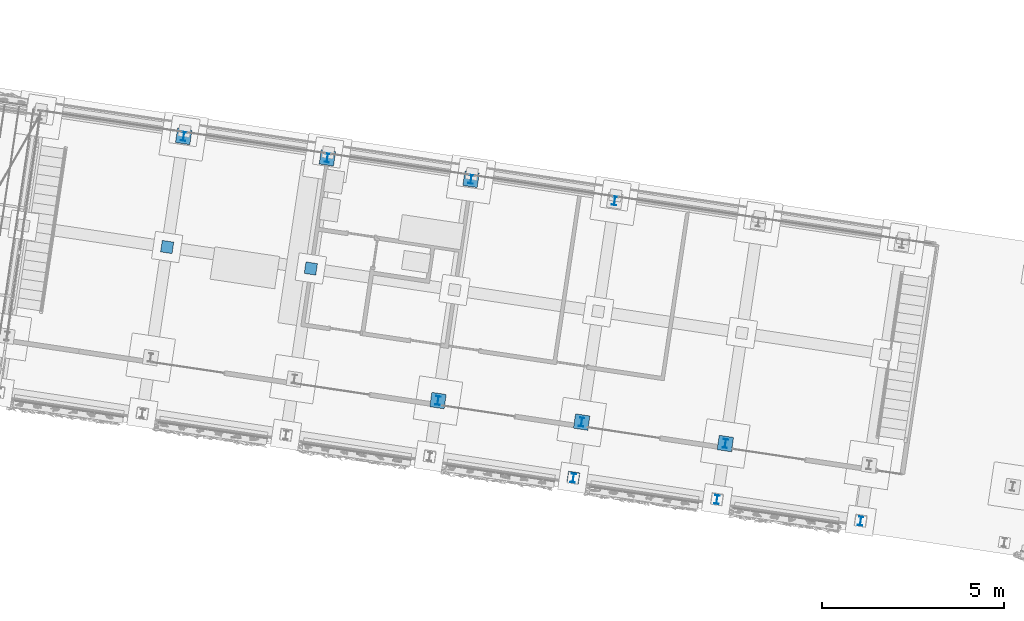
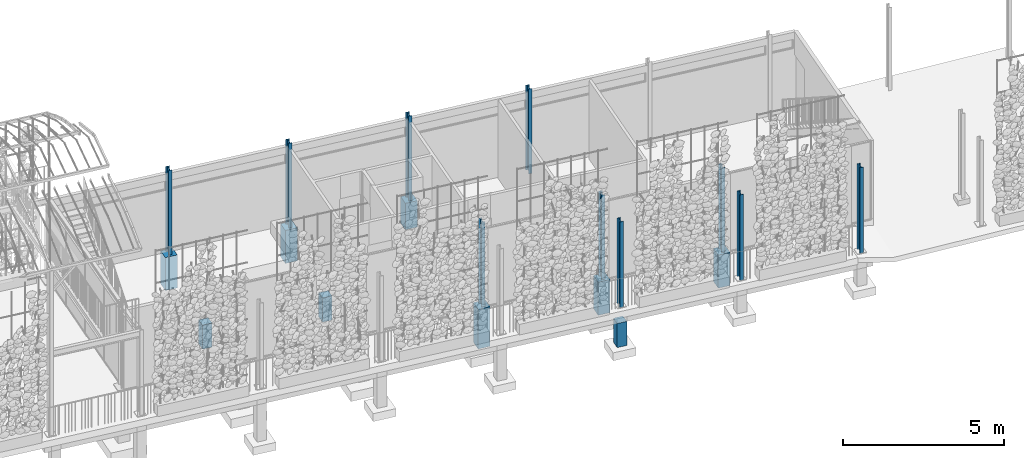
# One storey, part 4 of 142: 19 columns, 1 element without a shape of its own.
"""IFC4 building model written with IfcOpenShell, lengths in metres."""

from ifc_helpers import new_model, si_unit, direction, frame, origin_with_axes, place, context, subcontext, project, spatial, polyline, i_section, outline, extrude, material, material_profile, profile_set, profile_usage, type_object, element, aggregate, save


model = new_model("IFC4")

# Units and contexts
model_context = context("Model", 3, precision=1e-05, world=origin_with_axes(), true_north=direction((0.0, 1.0)))
body_context = subcontext(model_context, "Body", "Model", "MODEL_VIEW")
ifc_project = project(units=[si_unit("AREAUNIT", "SQUARE_METRE"), si_unit("VOLUMEUNIT", "CUBIC_METRE"), si_unit("LENGTHUNIT", "METRE")], contexts=[model_context])

# Site, building, storey
site_placement = place(None, origin_with_axes())
site = spatial("IfcSite", under=ifc_project, at=site_placement, Name="Lares · Rua das Mercês · artigo 4771")
building_placement = place(site_placement, frame((15.0, 9.7, 14.65), z_axis=(0.0, 0.0, 1.0), x_axis=(0.989015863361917, -0.147809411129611, 0.0)))
building = spatial("IfcBuilding", under=site, at=building_placement, Name="Casa Sobreposta")
storey_placement = place(building_placement, origin_with_axes())
storey = spatial("IfcBuildingStorey", under=building, at=storey_placement, Name="00 · Habitação e estacionamento", Elevation=14.65)

# Columns
ifc_material_1 = material(Name="Aço pintado / Stahl lackiert", Category="steel")
ifc_material_profile = material_profile(ifc_material_1, i_section(OverallWidth=0.12, OverallDepth=0.24, WebThickness=0.0062, FlangeThickness=0.0098))
ifc_profile_set = profile_set([ifc_material_profile], Name="IPE240")
ifc_profile_usage_1 = profile_usage(ifc_profile_set)
column_type = type_object("IfcColumnType", Name="IPE240 / steel", PredefinedType="NOTDEFINED", material=ifc_profile_set)
column_1_placement = place(storey_placement, frame((4.0, 6.28, 0.0), z_axis=(0.0, 0.0, 1.0), x_axis=(1.0, 0.0, 0.0)))
element("IfcColumn", 1, at=column_1_placement, inside=storey, type_object=column_type, material=ifc_profile_usage_1, Name="Pilar 2B · IPE240", context=body_context, shape_type="SweptSolid", body=[
    extrude(i_section(OverallWidth=0.12, OverallDepth=0.24, WebThickness=0.0062, FlangeThickness=0.0098), origin_with_axes(), (0.0, 0.0, 1.0), 3.208),
])
ifc_profile_usage_2 = profile_usage(ifc_profile_set)
column_2_placement = place(storey_placement, frame((8.0, 6.28, 0.0), z_axis=(0.0, 0.0, 1.0), x_axis=(1.0, 0.0, 0.0)))
element("IfcColumn", 2, at=column_2_placement, inside=storey, type_object=column_type, material=ifc_profile_usage_2, Name="Pilar 3B · IPE240", context=body_context, shape_type="SweptSolid", body=[
    extrude(i_section(OverallWidth=0.12, OverallDepth=0.24, WebThickness=0.0062, FlangeThickness=0.0098), origin_with_axes(), (0.0, 0.0, 1.0), 3.208),
])
ifc_profile_usage_3 = profile_usage(ifc_profile_set)
column_3_placement = place(storey_placement, frame((12.0, 0.12, 0.0), z_axis=(0.0, 0.0, 1.0), x_axis=(1.0, 0.0, 0.0)))
element("IfcColumn", 3, at=column_3_placement, inside=storey, type_object=column_type, material=ifc_profile_usage_3, Name="Pilar 4A · IPE240", context=body_context, shape_type="SweptSolid", body=[
    extrude(i_section(OverallWidth=0.12, OverallDepth=0.24, WebThickness=0.0062, FlangeThickness=0.0098), origin_with_axes(), (0.0, 0.0, 1.0), 3.208),
])
ifc_profile_usage_4 = profile_usage(ifc_profile_set)
column_4_placement = place(storey_placement, frame((12.0, 6.28, 0.0), z_axis=(0.0, 0.0, 1.0), x_axis=(1.0, 0.0, 0.0)))
element("IfcColumn", 4, at=column_4_placement, inside=storey, type_object=column_type, material=ifc_profile_usage_4, Name="Pilar 4B · IPE240", context=body_context, shape_type="SweptSolid", body=[
    extrude(i_section(OverallWidth=0.12, OverallDepth=0.24, WebThickness=0.0062, FlangeThickness=0.0098), origin_with_axes(), (0.0, 0.0, 1.0), 3.208),
])
ifc_profile_usage_5 = profile_usage(ifc_profile_set)
column_5_placement = place(storey_placement, frame((16.0, 0.12, 0.0), z_axis=(0.0, 0.0, 1.0), x_axis=(1.0, 0.0, 0.0)))
element("IfcColumn", 5, at=column_5_placement, inside=storey, type_object=column_type, material=ifc_profile_usage_5, Name="Pilar 5A · IPE240", context=body_context, shape_type="SweptSolid", body=[
    extrude(i_section(OverallWidth=0.12, OverallDepth=0.24, WebThickness=0.0062, FlangeThickness=0.0098), origin_with_axes(), (0.0, 0.0, 1.0), 3.208),
])
ifc_profile_usage_6 = profile_usage(ifc_profile_set)
column_6_placement = place(storey_placement, frame((16.0, 6.28, 0.0), z_axis=(0.0, 0.0, 1.0), x_axis=(1.0, 0.0, 0.0)))
element("IfcColumn", 6, at=column_6_placement, inside=storey, type_object=column_type, material=ifc_profile_usage_6, Name="Pilar 5B · IPE240", context=body_context, shape_type="SweptSolid", body=[
    extrude(i_section(OverallWidth=0.12, OverallDepth=0.24, WebThickness=0.0062, FlangeThickness=0.0098), origin_with_axes(), (0.0, 0.0, 1.0), 3.208),
])
ifc_profile_usage_7 = profile_usage(ifc_profile_set)
column_7_placement = place(storey_placement, frame((20.0, 0.12, 0.0), z_axis=(0.0, 0.0, 1.0), x_axis=(1.0, 0.0, 0.0)))
element("IfcColumn", 7, at=column_7_placement, inside=storey, type_object=column_type, material=ifc_profile_usage_7, Name="Pilar 6A · IPE240", context=body_context, shape_type="SweptSolid", body=[
    extrude(i_section(OverallWidth=0.12, OverallDepth=0.24, WebThickness=0.0062, FlangeThickness=0.0098), origin_with_axes(), (0.0, 0.0, 1.0), 3.208),
])
ifc_profile_usage_8 = profile_usage(ifc_profile_set)
column_8_placement = place(storey_placement, frame((16.0, -1.44, -0.04), z_axis=(0.0, 0.0, 1.0), x_axis=(1.0, 0.0, 0.0)))
element("IfcColumn", 8, at=column_8_placement, inside=storey, type_object=column_type, material=ifc_profile_usage_8, Name="Projeção estufa · pilar sul ao pódio", context=body_context, shape_type="SweptSolid", body=[
    extrude(i_section(OverallWidth=0.12, OverallDepth=0.24, WebThickness=0.0062, FlangeThickness=0.0098), origin_with_axes(), (0.0, 0.0, 1.0), 3.248),
])
ifc_profile_usage_9 = profile_usage(ifc_profile_set)
column_9_placement = place(storey_placement, frame((20.0, -1.44, -0.04), z_axis=(0.0, 0.0, 1.0), x_axis=(1.0, 0.0, 0.0)))
element("IfcColumn", 9, at=column_9_placement, inside=storey, type_object=column_type, material=ifc_profile_usage_9, Name="Projeção estufa · pilar sul ao pódio", context=body_context, shape_type="SweptSolid", body=[
    extrude(i_section(OverallWidth=0.12, OverallDepth=0.24, WebThickness=0.0062, FlangeThickness=0.0098), origin_with_axes(), (0.0, 0.0, 1.0), 3.248),
])
ifc_profile_usage_10 = profile_usage(ifc_profile_set)
column_10_placement = place(storey_placement, frame((24.0, -1.44, -0.04), z_axis=(0.0, 0.0, 1.0), x_axis=(1.0, 0.0, 0.0)))
element("IfcColumn", 10, at=column_10_placement, inside=storey, type_object=column_type, material=ifc_profile_usage_10, Name="Projeção estufa · pilar sul ao pódio", context=body_context, shape_type="SweptSolid", body=[
    extrude(i_section(OverallWidth=0.12, OverallDepth=0.24, WebThickness=0.0062, FlangeThickness=0.0098), origin_with_axes(), (0.0, 0.0, 1.0), 3.248),
])
ifc_material_2 = material(Name="Betão armado / Stahlbeton", Category="concrete")
column_11_placement = place(storey_placement, frame((0.0, 0.0, -1.25), z_axis=(0.0, 0.0, 1.0), x_axis=(1.0, 0.0, 0.0)))
element("IfcColumn", 11, at=column_11_placement, inside=storey, material=ifc_material_2, Name="Pedestal 2B · betão 400 x 400", context=body_context, shape_type="SweptSolid", body=[
    extrude(outline(polyline([(4.2, 6.08), (4.2, 6.48), (3.8, 6.48), (3.8, 6.08), (4.2, 6.08)])), origin_with_axes(), (0.0, 0.0, 1.0), 1.25),
])
column_12_placement = place(storey_placement, frame((0.0, 0.0, -1.25), z_axis=(0.0, 0.0, 1.0), x_axis=(1.0, 0.0, 0.0)))
element("IfcColumn", 12, at=column_12_placement, inside=storey, material=ifc_material_2, Name="Pedestal 3B · betão 400 x 400", context=body_context, shape_type="SweptSolid", body=[
    extrude(outline(polyline([(8.2, 6.08), (8.2, 6.48), (7.8, 6.48), (7.8, 6.08), (8.2, 6.08)])), origin_with_axes(), (0.0, 0.0, 1.0), 1.25),
])
column_13_placement = place(storey_placement, frame((0.0, 0.0, -1.5), z_axis=(0.0, 0.0, 1.0), x_axis=(1.0, 0.0, 0.0)))
element("IfcColumn", 13, at=column_13_placement, inside=storey, material=ifc_material_2, Name="Pedestal 4A · betão 400 x 400", context=body_context, shape_type="SweptSolid", body=[
    extrude(outline(polyline([(12.2, -0.08), (12.2, 0.32), (11.8, 0.32), (11.8, -0.08), (12.2, -0.08)])), origin_with_axes(), (0.0, 0.0, 1.0), 1.5),
])
column_14_placement = place(storey_placement, frame((0.0, 0.0, -1.0), z_axis=(0.0, 0.0, 1.0), x_axis=(1.0, 0.0, 0.0)))
element("IfcColumn", 14, at=column_14_placement, inside=storey, material=ifc_material_2, Name="Pedestal 4B · betão 400 x 400", context=body_context, shape_type="SweptSolid", body=[
    extrude(outline(polyline([(12.2, 6.08), (12.2, 6.48), (11.8, 6.48), (11.8, 6.08), (12.2, 6.08)])), origin_with_axes(), (0.0, 0.0, 1.0), 1.0),
])
column_15_placement = place(storey_placement, frame((0.0, 0.0, -1.25), z_axis=(0.0, 0.0, 1.0), x_axis=(1.0, 0.0, 0.0)))
element("IfcColumn", 15, at=column_15_placement, inside=storey, material=ifc_material_2, Name="Pedestal 5A · betão 400 x 400", context=body_context, shape_type="SweptSolid", body=[
    extrude(outline(polyline([(16.2, -0.08), (16.2, 0.32), (15.8, 0.32), (15.8, -0.08), (16.2, -0.08)])), origin_with_axes(), (0.0, 0.0, 1.0), 1.25),
])
column_16_placement = place(storey_placement, frame((0.0, 0.0, -1.25), z_axis=(0.0, 0.0, 1.0), x_axis=(1.0, 0.0, 0.0)))
element("IfcColumn", 16, at=column_16_placement, inside=storey, material=ifc_material_2, Name="Pedestal 6A · betão 400 x 400", context=body_context, shape_type="SweptSolid", body=[
    extrude(outline(polyline([(20.2, -0.08), (20.2, 0.32), (19.8, 0.32), (19.8, -0.08), (20.2, -0.08)])), origin_with_axes(), (0.0, 0.0, 1.0), 1.25),
])

# Assembly, columns
assembly_placement = place(storey_placement, origin_with_axes())
assembly = element("IfcElementAssembly", 17, at=assembly_placement, inside=storey, Name="Pódio · terraço, casa térrea e cisterna", ObjectType="CISTERN_PODIUM", PredefinedType="USERDEFINED")
column_17_placement = place(assembly_placement, frame((0.0, 0.0, -1.5), z_axis=(0.0, 0.0, 1.0), x_axis=(1.0, 0.0, 0.0)))
column_17 = element("IfcColumn", 18, at=column_17_placement, material=ifc_material_2, Name="Pódio suspenso · apoio sobre o terreno", context=body_context, shape_type="SweptSolid", body=[
    extrude(outline(polyline([(4.16, 3.04), (4.16, 3.36), (3.84, 3.36), (3.84, 3.04), (4.16, 3.04)])), origin_with_axes(), (0.0, 0.0, 1.0), 0.91),
])
column_18_placement = place(assembly_placement, frame((0.0, 0.0, -1.5), z_axis=(0.0, 0.0, 1.0), x_axis=(1.0, 0.0, 0.0)))
column_18 = element("IfcColumn", 19, at=column_18_placement, material=ifc_material_2, Name="Pódio suspenso · apoio sobre o terreno", context=body_context, shape_type="SweptSolid", body=[
    extrude(outline(polyline([(8.16, 3.04), (8.16, 3.36), (7.84, 3.36), (7.84, 3.04), (8.16, 3.04)])), origin_with_axes(), (0.0, 0.0, 1.0), 0.91),
])
column_19_placement = place(assembly_placement, frame((0.0, 0.0, -1.5), z_axis=(0.0, 0.0, 1.0), x_axis=(1.0, 0.0, 0.0)))
column_19 = element("IfcColumn", 20, at=column_19_placement, material=ifc_material_2, Name="Pódio suspenso · apoio sobre o terreno", context=body_context, shape_type="SweptSolid", body=[
    extrude(outline(polyline([(16.16, -1.59), (16.16, -1.27), (15.84, -1.27), (15.84, -1.59), (16.16, -1.59)])), origin_with_axes(), (0.0, 0.0, 1.0), 0.91),
])
aggregate(assembly, [column_17, column_18, column_19])

save(model, "model.ifc")
